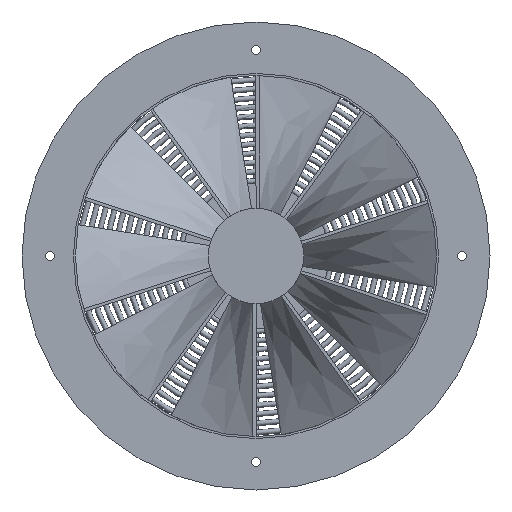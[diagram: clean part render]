
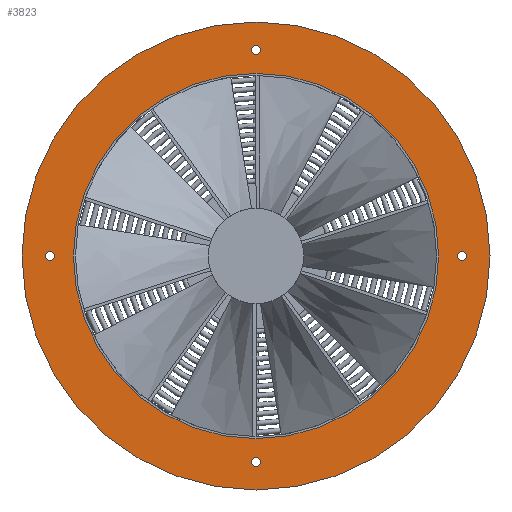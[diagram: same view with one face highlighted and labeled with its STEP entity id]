
A CAD part, left-side view. The second image highlights one B-rep face of the part: STEP entity #3823.
In plain terms, the highlighted planar face has unit normal (-1, 0, 0).
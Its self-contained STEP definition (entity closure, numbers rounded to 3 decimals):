
#285=PLANE('',#4184);
#948=FACE_BOUND('',#1347,.T.);
#949=FACE_BOUND('',#1348,.T.);
#950=FACE_BOUND('',#1349,.T.);
#951=FACE_BOUND('',#1350,.T.);
#952=FACE_BOUND('',#1351,.T.);
#1113=FACE_OUTER_BOUND('',#1346,.T.);
#1346=EDGE_LOOP('',(#3455));
#1347=EDGE_LOOP('',(#3456));
#1348=EDGE_LOOP('',(#3457));
#1349=EDGE_LOOP('',(#3458));
#1350=EDGE_LOOP('',(#3459));
#1351=EDGE_LOOP('',(#3460));
#1372=CIRCLE('',#3841,4.5);
#1374=CIRCLE('',#3844,4.5);
#1376=CIRCLE('',#3847,4.5);
#1378=CIRCLE('',#3850,4.5);
#1441=CIRCLE('',#4185,230.);
#1442=CIRCLE('',#4186,179.5);
#1449=VERTEX_POINT('',#5149);
#1451=VERTEX_POINT('',#5154);
#1453=VERTEX_POINT('',#5159);
#1455=VERTEX_POINT('',#5164);
#1808=VERTEX_POINT('',#7192);
#1809=VERTEX_POINT('',#7194);
#1814=EDGE_CURVE('',#1449,#1449,#1372,.T.);
#1816=EDGE_CURVE('',#1451,#1451,#1374,.T.);
#1818=EDGE_CURVE('',#1453,#1453,#1376,.T.);
#1820=EDGE_CURVE('',#1455,#1455,#1378,.T.);
#2355=EDGE_CURVE('',#1808,#1808,#1441,.T.);
#2356=EDGE_CURVE('',#1809,#1809,#1442,.T.);
#3455=ORIENTED_EDGE('',*,*,#2355,.F.);
#3456=ORIENTED_EDGE('',*,*,#1814,.T.);
#3457=ORIENTED_EDGE('',*,*,#1816,.T.);
#3458=ORIENTED_EDGE('',*,*,#1818,.T.);
#3459=ORIENTED_EDGE('',*,*,#1820,.T.);
#3460=ORIENTED_EDGE('',*,*,#2356,.T.);
#3823=ADVANCED_FACE('',(#1113,#948,#949,#950,#951,#952),#285,.T.);
#3841=AXIS2_PLACEMENT_3D('',#5150,#4203,#4204);
#3844=AXIS2_PLACEMENT_3D('',#5155,#4209,#4210);
#3847=AXIS2_PLACEMENT_3D('',#5160,#4215,#4216);
#3850=AXIS2_PLACEMENT_3D('',#5165,#4221,#4222);
#4184=AXIS2_PLACEMENT_3D('',#7191,#5117,#5118);
#4185=AXIS2_PLACEMENT_3D('',#7193,#5119,#5120);
#4186=AXIS2_PLACEMENT_3D('',#7195,#5121,#5122);
#4203=DIRECTION('center_axis',(1.,0.,0.));
#4204=DIRECTION('ref_axis',(0.,1.,0.));
#4209=DIRECTION('center_axis',(1.,0.,0.));
#4210=DIRECTION('ref_axis',(0.,0.,-1.));
#4215=DIRECTION('center_axis',(1.,0.,0.));
#4216=DIRECTION('ref_axis',(0.,-1.,0.));
#4221=DIRECTION('center_axis',(1.,0.,0.));
#4222=DIRECTION('ref_axis',(0.,0.,1.));
#5117=DIRECTION('center_axis',(-1.,0.,0.));
#5118=DIRECTION('ref_axis',(0.,0.,1.));
#5119=DIRECTION('center_axis',(1.,0.,0.));
#5120=DIRECTION('ref_axis',(0.,0.,-1.));
#5121=DIRECTION('center_axis',(1.,0.,0.));
#5122=DIRECTION('ref_axis',(0.,0.,-1.));
#5149=CARTESIAN_POINT('',(70.,-207.,0.));
#5150=CARTESIAN_POINT('Origin',(70.,-202.5,0.));
#5154=CARTESIAN_POINT('',(70.,0.,207.));
#5155=CARTESIAN_POINT('Origin',(70.,0.,202.5));
#5159=CARTESIAN_POINT('',(70.,207.,0.));
#5160=CARTESIAN_POINT('Origin',(70.,202.5,0.));
#5164=CARTESIAN_POINT('',(70.,0.,-207.));
#5165=CARTESIAN_POINT('Origin',(70.,0.,-202.5));
#7191=CARTESIAN_POINT('Origin',(70.,230.,0.));
#7192=CARTESIAN_POINT('',(70.,230.,0.));
#7193=CARTESIAN_POINT('Origin',(70.,0.,0.));
#7194=CARTESIAN_POINT('',(70.,179.5,0.));
#7195=CARTESIAN_POINT('Origin',(70.,0.,0.));
